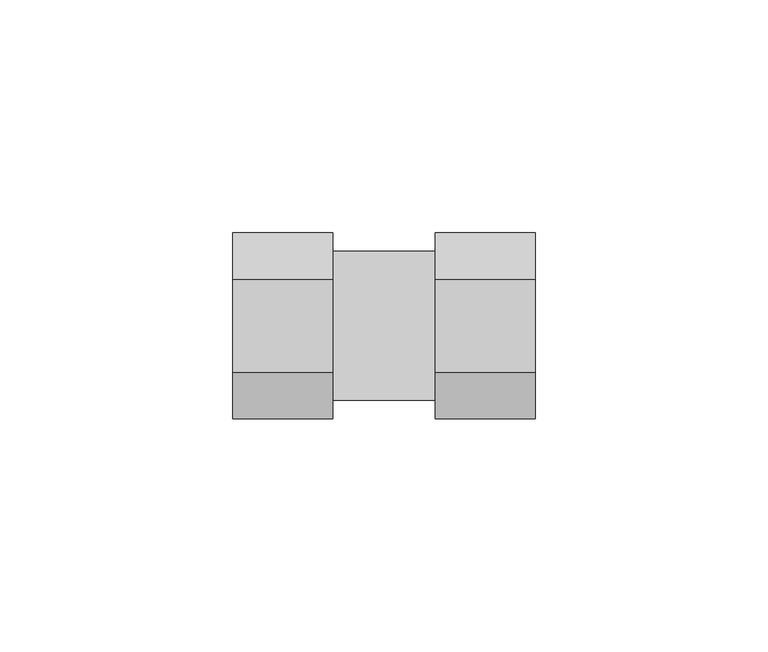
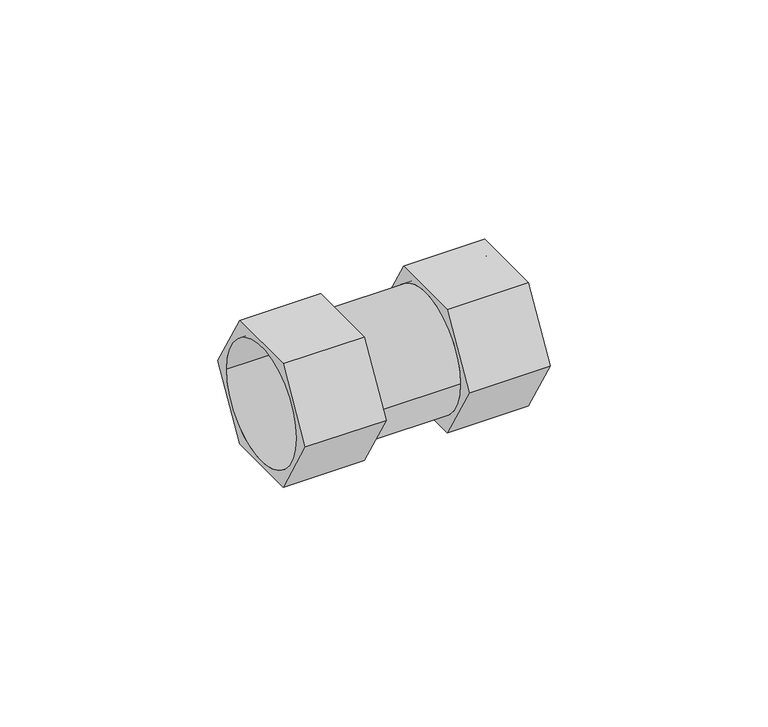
"""IFC4 building model written with IfcOpenShell, lengths in millimetres: pipe fitting geometry, БИР ПЕКС_КМП_Муфта прямая : Муфта ПЕКС Прямая."""

import ifcopenshell
import ifcopenshell.guid

model = None  # the IFC model being written
_history = None  # IfcOwnerHistory: only IFC2X3 demands one
_inside = {}  # id of a spatial element -> (the spatial element, [elements in it])
_under = {}  # id of a project, library or spatial element -> (it, [spatial elements below it])
_declared = {}  # id of a project -> (the project, [libraries it declares])
_typed = {}  # id of a type object -> (the type object, [elements of that type])
_made_of = {}  # id of a material, layer set ... -> (it, [elements and type objects made of it])


def new_model(schema):
    """Start an empty IFC model of exactly this schema.

    Asked for "IFC4X3", IfcOpenShell would pick the latest addendum, in which some entities
    have other attributes; the version numbers below select the first issue.
    IFC2X3 requires an IfcOwnerHistory on every rooted entity: one is made here for all.
    """
    global model, _history
    if schema == "IFC4X3":
        model = ifcopenshell.file(schema_version=(4, 3, 0, 0))
    else:
        model = ifcopenshell.file(schema=schema)
    _inside.clear()
    _under.clear()
    _declared.clear()
    _typed.clear()
    _made_of.clear()
    _history = None
    if model.schema == "IFC2X3":
        org = make("IfcOrganization", Name="unknown")
        user = make(
            "IfcPersonAndOrganization",
            ThePerson=make("IfcPerson", FamilyName="unknown"),
            TheOrganization=org,
        )
        app = make(
            "IfcApplication",
            ApplicationDeveloper=org,
            Version="unknown",
            ApplicationFullName="unknown",
            ApplicationIdentifier="unknown",
        )
        _history = make(
            "IfcOwnerHistory",
            OwningUser=user,
            OwningApplication=app,
            ChangeAction="ADDED",
            CreationDate=0,
        )
    return model


def make(cls, **values):
    """One entity of the class cls with the attributes given. An attribute that is None is left unset."""
    return model.create_entity(
        cls, **{name: value for name, value in values.items() if value is not None}
    )


def rooted(cls, **values):
    """An entity with a GlobalId (a new one), such as an element, a storey or a relation."""
    return make(cls, GlobalId=ifcopenshell.guid.new(), OwnerHistory=_history, **values)


def si_unit(unit_type, name, prefix=None):
    """IfcSIUnit, for example si_unit("LENGTHUNIT", "METRE", prefix="MILLI")."""
    return make("IfcSIUnit", UnitType=unit_type, Prefix=prefix, Name=name)


def assignment(units):
    """IfcUnitAssignment: the units of a project."""
    return None if units is None else make("IfcUnitAssignment", Units=units)


def point(xyz):
    """IfcCartesianPoint."""
    return None if xyz is None else make("IfcCartesianPoint", Coordinates=xyz)


def direction(xyz):
    """IfcDirection."""
    return None if xyz is None else make("IfcDirection", DirectionRatios=xyz)


def frame(location, z_axis=None, x_axis=None):
    """IfcAxis2Placement3D, a coordinate frame: its origin and axes. An axis left out is left unset."""
    return make(
        "IfcAxis2Placement3D",
        Location=point(location),
        Axis=direction(z_axis),
        RefDirection=direction(x_axis),
    )


def frame_2d(location, x_axis=None):
    """IfcAxis2Placement2D, a coordinate frame in the plane: its origin and x axis."""
    return make(
        "IfcAxis2Placement2D", Location=point(location), RefDirection=direction(x_axis)
    )


def origin():
    """The frame at (0, 0, 0) with its axes left unset."""
    return frame((0.0, 0.0, 0.0))


def origin_2d():
    """The frame at (0, 0) in the plane with its x axis left unset."""
    return frame_2d((0.0, 0.0))


def place(relative_to, where):
    """IfcLocalPlacement: puts the frame where relative to a parent placement (None: the world)."""
    return make(
        "IfcLocalPlacement", PlacementRelTo=relative_to, RelativePlacement=where
    )


def context(
    kind, dimensions, precision=None, world=None, true_north=None, identifier=None
):
    """IfcGeometricRepresentationContext, for example the 3D "Model" context."""
    return make(
        "IfcGeometricRepresentationContext",
        ContextIdentifier=identifier,
        ContextType=kind,
        CoordinateSpaceDimension=dimensions,
        Precision=precision,
        WorldCoordinateSystem=world,
        TrueNorth=true_north,
    )


def project(units=None, contexts=None):
    """IfcProject with its units and contexts."""
    return rooted(
        "IfcProject",
        Name="project",
        RepresentationContexts=contexts,
        UnitsInContext=assignment(units),
    )


def spatial(cls, under=None, at=None, **own):
    """A site, building, storey or space (cls), placed at a placement, below another one or the project."""
    s = rooted(cls, ObjectPlacement=at, **own)
    if under is not None:
        _under.setdefault(under.id(), (under, []))[1].append(s)
    return s


def polyline(points):
    """IfcPolyline through the points."""
    return make("IfcPolyline", Points=[point(p) for p in points])


def circle_curve(where, radius):
    """IfcCircle in the frame where."""
    return make("IfcCircle", Position=where, Radius=radius)


def trimmed(basis, trim1, trim2, sense, master):
    """IfcTrimmedCurve: the piece of a basis curve between two trims."""
    return make(
        "IfcTrimmedCurve",
        BasisCurve=basis,
        Trim1=trim1,
        Trim2=trim2,
        SenseAgreement=sense,
        MasterRepresentation=master,
    )


def segment(curve, same_sense, transition):
    """IfcCompositeCurveSegment."""
    return make(
        "IfcCompositeCurveSegment",
        Transition=transition,
        SameSense=same_sense,
        ParentCurve=curve,
    )


def composite_curve(segments, self_intersect=None):
    """IfcCompositeCurve: segments joined end to end."""
    return make("IfcCompositeCurve", Segments=segments, SelfIntersect=self_intersect)


def outline(outer, holes=None, kind="AREA"):
    """IfcArbitraryClosedProfileDef: a profile drawn as a closed curve; with holes, ...WithVoids."""
    if holes is None:
        return make("IfcArbitraryClosedProfileDef", ProfileType=kind, OuterCurve=outer)
    return make(
        "IfcArbitraryProfileDefWithVoids",
        ProfileType=kind,
        OuterCurve=outer,
        InnerCurves=holes,
    )


def extrude(swept, where, along, depth):
    """IfcExtrudedAreaSolid: the profile swept, set in the frame where, extruded along a direction by depth."""
    return make(
        "IfcExtrudedAreaSolid",
        SweptArea=swept,
        Position=where,
        ExtrudedDirection=direction(along),
        Depth=depth,
    )


def shape(context_of_items, identifier, shape_type, items):
    """IfcShapeRepresentation: the items that make up one representation, for example the "Body"."""
    return make(
        "IfcShapeRepresentation",
        ContextOfItems=context_of_items,
        RepresentationIdentifier=identifier,
        RepresentationType=shape_type,
        Items=items,
    )


def source(mapping_origin, context_of_items, identifier, shape_type, items):
    """IfcRepresentationMap: a shape defined once, which mapped items show again and again."""
    return make(
        "IfcRepresentationMap",
        MappingOrigin=mapping_origin,
        MappedRepresentation=shape(context_of_items, identifier, shape_type, items),
    )


def transform(
    local_origin,
    x_axis=None,
    y_axis=None,
    z_axis=None,
    scale=None,
    scale2=None,
    scale3=None,
    uniform=True,
):
    """IfcCartesianTransformationOperator3D, or its non-uniform kind. x_axis, y_axis, z_axis: its Axis1, 2, 3."""
    if uniform:
        return make(
            "IfcCartesianTransformationOperator3D",
            Axis1=direction(x_axis),
            Axis2=direction(y_axis),
            LocalOrigin=point(local_origin),
            Scale=scale,
            Axis3=direction(z_axis),
        )
    return make(
        "IfcCartesianTransformationOperator3DnonUniform",
        Axis1=direction(x_axis),
        Axis2=direction(y_axis),
        LocalOrigin=point(local_origin),
        Scale=scale,
        Axis3=direction(z_axis),
        Scale2=scale2,
        Scale3=scale3,
    )


def mapped(mapping_source, mapping_target):
    """IfcMappedItem: shows the shape of a source again, moved by a transform."""
    return make(
        "IfcMappedItem", MappingSource=mapping_source, MappingTarget=mapping_target
    )


def made_of(thing, what):
    """Note that an element or type object is made of a material, layer set ...; save() writes the relation."""
    if what is not None:
        _made_of.setdefault(what.id(), (what, []))[1].append(thing)
    return thing


def element(
    cls,
    number,
    at=None,
    inside=None,
    cuts=None,
    type_object=None,
    material=None,
    context=None,
    identifier="Body",
    shape_type=None,
    held_by="IfcProductDefinitionShape",
    body=None,
    shapes=None,
    **own,
):
    """One element of the class cls, such as IfcWall. Its Tag is "e" and its number.

    at: its placement. inside: the storey or other place that contains it. cuts: it is an
    opening in that element (IfcRelVoidsElement). A single representation is given by context,
    identifier, shape_type and body (its items); several are given by shapes. held_by: the class
    of the entity that holds the representations. save() writes the other relations.
    """
    e = rooted(cls, Tag="e%d" % number, ObjectPlacement=at, **own)
    if body is not None:
        shapes = [shape(context, identifier, shape_type, body)]
    if shapes is not None:
        e.Representation = make(held_by, Representations=shapes)
    if inside is not None:
        _inside.setdefault(inside.id(), (inside, []))[1].append(e)
    if cuts is not None:
        rooted(
            "IfcRelVoidsElement", RelatingBuildingElement=cuts, RelatedOpeningElement=e
        )
    if type_object is not None:
        _typed.setdefault(type_object.id(), (type_object, []))[1].append(e)
    return made_of(e, material)


def aggregate(whole, parts):
    """IfcRelAggregates: a whole, such as a stair, and the parts it consists of."""
    return rooted("IfcRelAggregates", RelatingObject=whole, RelatedObjects=parts)


def save(model, path):
    """Write the relations noted so far, then the file.

    IfcRelAggregates (storeys below a building ...), IfcRelContainedInSpatialStructure (elements
    in a storey), IfcRelDefinesByType, IfcRelAssociatesMaterial and IfcRelDeclares: one each for
    every whole, place, type object, material and project.
    """
    for whole, parts in _under.values():
        aggregate(whole, parts)
    for where, things in _inside.values():
        rooted(
            "IfcRelContainedInSpatialStructure",
            RelatedElements=things,
            RelatingStructure=where,
        )
    for kind, things in _typed.values():
        rooted("IfcRelDefinesByType", RelatedObjects=things, RelatingType=kind)
    for what, things in _made_of.values():
        rooted("IfcRelAssociatesMaterial", RelatedObjects=things, RelatingMaterial=what)
    for by, libraries in _declared.values():
        rooted("IfcRelDeclares", RelatingContext=by, RelatedDefinitions=libraries)
    model.write(path)


def pipe_fitting_6aa788d0(model_context):
    return source(origin(), model_context, "Body", "SweptSolid", [
        extrude(outline(polyline([(-10.0, -17.3205081), (-20.0, 0.0), (-10.0, 17.3205081), (10.0, 17.3205081), (20.0, 0.0), (10.0, -17.3205081), (-10.0, -17.3205081)]), holes=[composite_curve([segment(trimmed(circle_curve(origin_2d(), 16.0), [point((-16.0, 0.0))], [point((16.0, 0.0))], True, "CARTESIAN"), True, "CONTINUOUS"), segment(trimmed(circle_curve(origin_2d(), 16.0), [point((16.0, 0.0))], [point((-16.0, 0.0))], True, "CARTESIAN"), True, "CONTINUOUS")], self_intersect=False)]), frame((11.0, 0.0, 0.0), z_axis=(1.0, 0.0, 0.0), x_axis=(0.0, 1.0, 0.0)), (0.0, 0.0, 1.0), 21.5),
        extrude(outline(polyline([(-10.0, -17.3205081), (-20.0, 0.0), (-10.0, 17.3205081), (10.0, 17.3205081), (20.0, 0.0), (10.0, -17.3205081), (-10.0, -17.3205081)]), holes=[composite_curve([segment(trimmed(circle_curve(origin_2d(), 16.0), [point((-16.0, 0.0))], [point((16.0, 0.0))], True, "CARTESIAN"), True, "CONTINUOUS"), segment(trimmed(circle_curve(origin_2d(), 16.0), [point((16.0, 0.0))], [point((-16.0, 0.0))], True, "CARTESIAN"), True, "CONTINUOUS")], self_intersect=False)]), frame((-32.5, 0.0, 0.0), z_axis=(1.0, 0.0, 0.0), x_axis=(0.0, 1.0, 0.0)), (0.0, 0.0, 1.0), 21.5),
        extrude(outline(composite_curve([segment(trimmed(circle_curve(origin_2d(), 16.0), [point((-16.0, 0.0))], [point((16.0, 0.0))], False, "CARTESIAN"), True, "CONTINUOUS"), segment(trimmed(circle_curve(origin_2d(), 16.0), [point((16.0, 0.0))], [point((-16.0, 0.0))], False, "CARTESIAN"), True, "CONTINUOUS")], self_intersect=False)), frame((-11.0, 0.0, 0.0), z_axis=(1.0, 0.0, 0.0), x_axis=(0.0, 1.0, 0.0)), (0.0, 0.0, 1.0), 22.0),
    ])


if __name__ == "__main__":
    model = new_model("IFC4")
    model_context = context("Model", 3, world=origin())
    ifc_project = project(units=[si_unit("LENGTHUNIT", "METRE", prefix="MILLI")], contexts=[model_context])
    site = spatial("IfcSite", under=ifc_project)
    building = spatial("IfcBuilding", under=site)
    placement = place(None, origin())
    pipe_fitting_shape = pipe_fitting_6aa788d0(model_context)
    element("IfcPipeFitting", 1, ObjectType="БИР ПЕКС_КМП_Муфта прямая : Муфта ПЕКС Прямая", at=placement, inside=building, context=model_context, shape_type="MappedRepresentation", body=[
        mapped(pipe_fitting_shape, transform((0.0, 0.0, 0.0), x_axis=(1.0, 0.0, 0.0), y_axis=(0.0, 1.0, 0.0), z_axis=(0.0, 0.0, 1.0))),
    ])
    save(model, "model.ifc")
